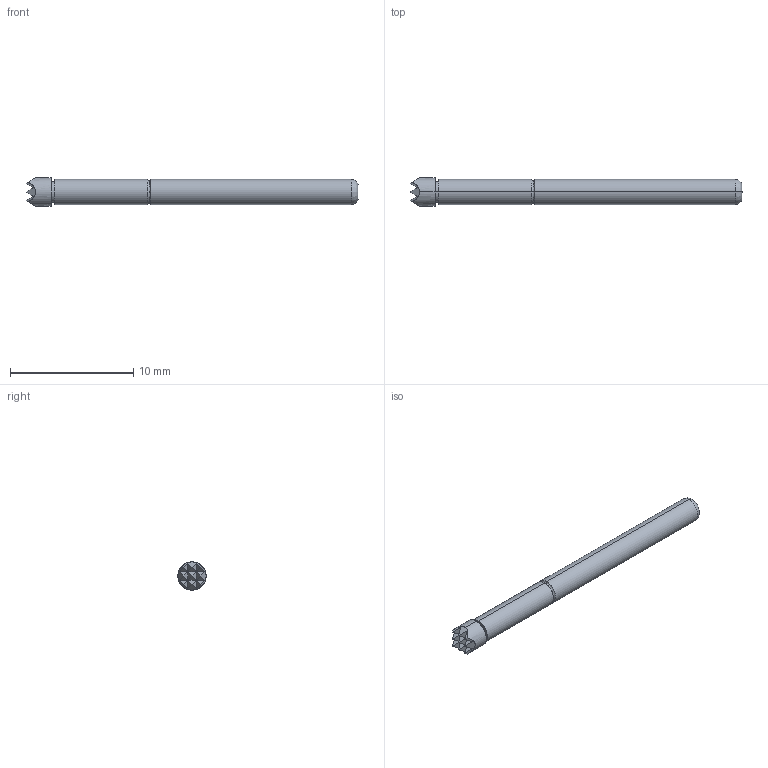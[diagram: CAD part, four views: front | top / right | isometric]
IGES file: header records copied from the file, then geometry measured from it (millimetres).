
Start section: SolidWorks IGES file using analytic representation for surfaces
Global section: file name: O:\PYLON\IGES FILES\P2665\P2665G-1W1S FULL.IGS; native system: SolidWorks 2015; preprocessor: SolidWorks 2015; author: kgolden; date: 171019.140106; units: inch
Bounding box: 26.92 x 2.29 x 2.29 mm (x, y, z)
Surface area: 191.8 mm2 (no closed solid volume)
Topology: 0 solids, 0 shells, 47 faces, 318 edges, 318 vertices
Faces by surface type: bspline 37, revolution 10
